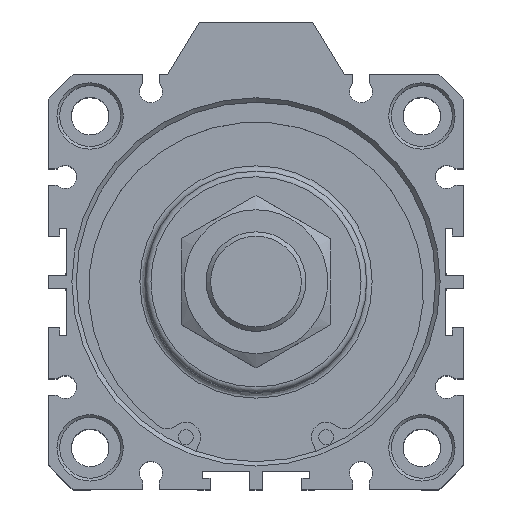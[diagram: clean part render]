
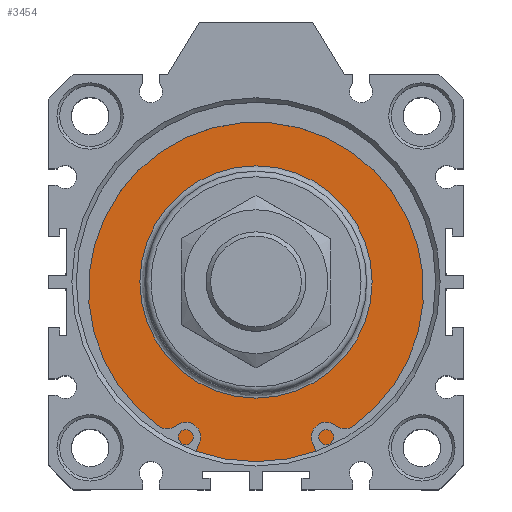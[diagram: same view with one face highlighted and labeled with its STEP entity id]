
A CAD part, top view. The second image highlights one B-rep face of the part: STEP entity #3454.
In plain terms, the highlighted planar face has unit normal (0, 0, 1).
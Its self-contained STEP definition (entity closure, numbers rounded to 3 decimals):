
#3403=CARTESIAN_POINT('',(2.99,22.555,67.3));
#3404=VERTEX_POINT('',#3403);
#3405=CARTESIAN_POINT('',(2.99,1.555,67.3));
#3406=DIRECTION('',(0.0,0.0,1.0));
#3407=DIRECTION('',(0.0,-1.0,0.0));
#3408=AXIS2_PLACEMENT_3D('',#3405,#3406,#3407);
#3409=CIRCLE('',#3408,21.);
#3410=EDGE_CURVE('',#3404,#3404,#3409,.T.);
#3435=CARTESIAN_POINT('',(2.99,27.805,67.3));
#3436=DIRECTION('',(0.0,0.0,1.0));
#3437=DIRECTION('',(1.0,0.0,0.0));
#3438=AXIS2_PLACEMENT_3D('',#3435,#3436,#3437);
#3439=PLANE('',#3438);
#3440=CARTESIAN_POINT('',(2.99,34.055,67.3));
#3441=VERTEX_POINT('',#3440);
#3442=CARTESIAN_POINT('',(2.99,1.555,67.3));
#3443=DIRECTION('',(0.0,0.0,-1.0));
#3444=DIRECTION('',(0.0,1.0,0.0));
#3445=AXIS2_PLACEMENT_3D('',#3442,#3443,#3444);
#3446=CIRCLE('',#3445,32.5);
#3447=EDGE_CURVE('',#3441,#3441,#3446,.T.);
#3448=ORIENTED_EDGE('',*,*,#3447,.F.);
#3449=EDGE_LOOP('',(#3448));
#3450=FACE_OUTER_BOUND('',#3449,.T.);
#3451=ORIENTED_EDGE('',*,*,#3410,.F.);
#3452=EDGE_LOOP('',(#3451));
#3453=FACE_BOUND('',#3452,.T.);
#3454=ADVANCED_FACE('',(#3450,#3453),#3439,.T.);
